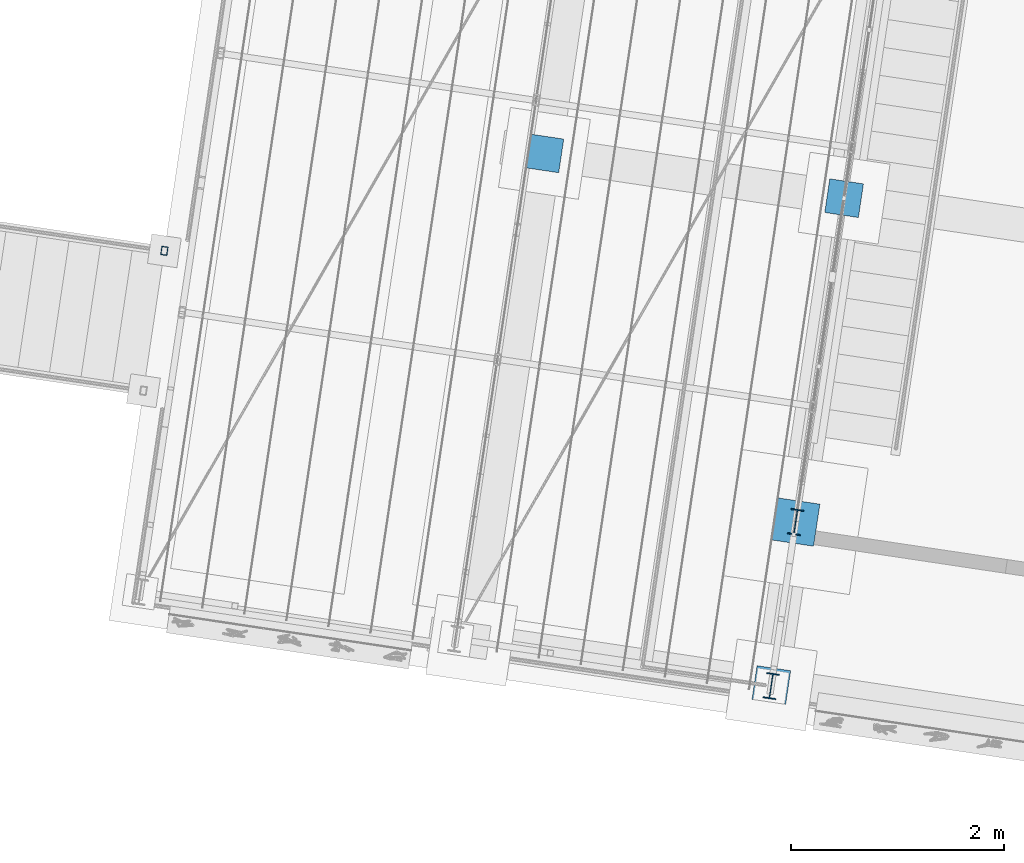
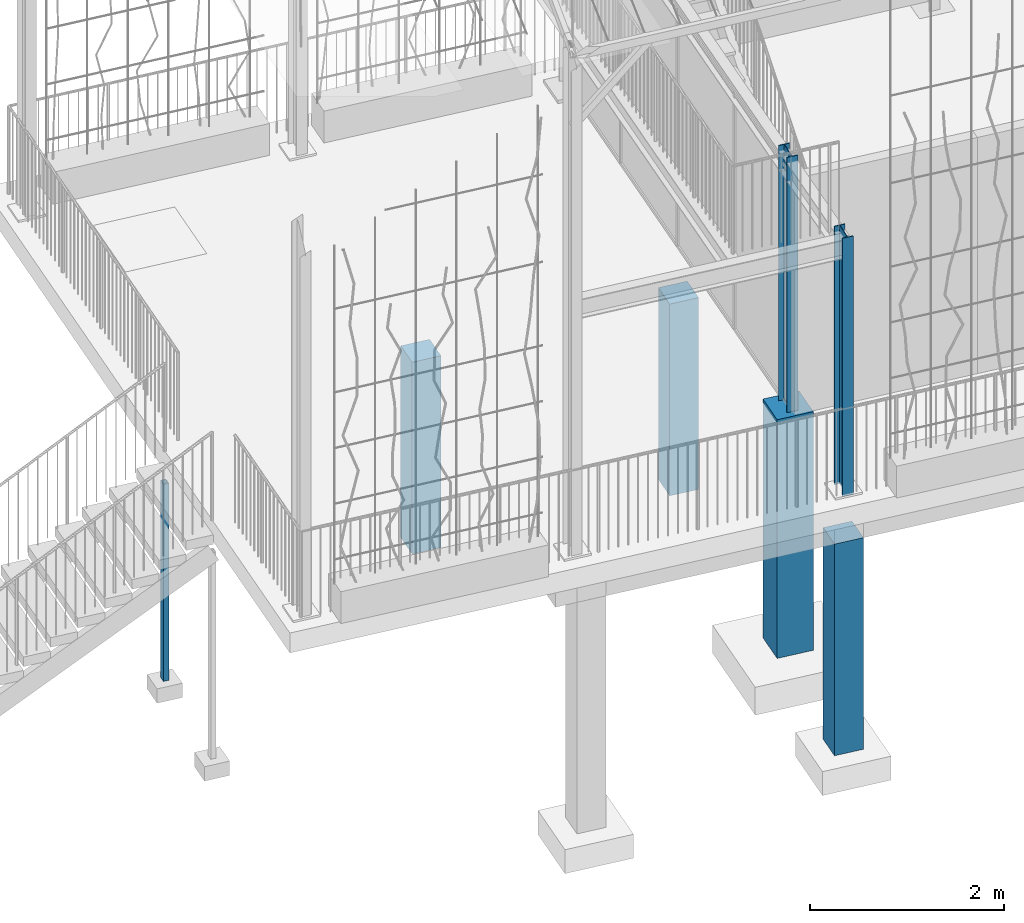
# One storey, part 3 of 143: 7 columns, 2 elements without a shape of their own.
"""IFC4 building model written with IfcOpenShell, lengths in metres."""

from ifc_helpers import new_model, si_unit, direction, frame, origin_with_axes, place, context, subcontext, project, spatial, polyline, hollow_rectangle, i_section, outline, extrude, material, material_profile, profile_set, profile_usage, type_object, element, aggregate, save


model = new_model("IFC4")

# Units and contexts
model_context = context("Model", 3, precision=1e-05, world=origin_with_axes(), true_north=direction((0.0, 1.0)))
body_context = subcontext(model_context, "Body", "Model", "MODEL_VIEW")
ifc_project = project(units=[si_unit("VOLUMEUNIT", "CUBIC_METRE"), si_unit("LENGTHUNIT", "METRE"), si_unit("AREAUNIT", "SQUARE_METRE")], contexts=[model_context])

# Site, building, storey
site_placement = place(None, origin_with_axes())
site = spatial("IfcSite", under=ifc_project, at=site_placement, Name="Lares · Rua das Mercês · artigo 4771")
building_placement = place(site_placement, frame((15.0, 9.7, 15.8), z_axis=(0.0, 0.0, 1.0), x_axis=(0.989015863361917, -0.147809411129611, 0.0)))
building = spatial("IfcBuilding", under=site, at=building_placement, Name="Casa Sobreposta")
storey_placement = place(building_placement, origin_with_axes())
storey = spatial("IfcBuildingStorey", under=building, at=storey_placement, Name="00 · Habitação e estacionamento", Elevation=15.8)

# Columns
ifc_material_1 = material(Name="Aço pintado / Stahl lackiert", Category="steel")
ifc_material_profile_1 = material_profile(ifc_material_1, i_section(OverallWidth=0.12, OverallDepth=0.24, WebThickness=0.0062, FlangeThickness=0.0098))
ifc_profile_set_1 = profile_set([ifc_material_profile_1], Name="IPE240")
ifc_profile_usage_1 = profile_usage(ifc_profile_set_1)
column_type_1 = type_object("IfcColumnType", Name="IPE240 / steel", PredefinedType="NOTDEFINED", material=ifc_profile_set_1)
column_1_placement = place(storey_placement, frame((0.0, 0.12, 0.0), z_axis=(0.0, 0.0, 1.0), x_axis=(1.0, 0.0, 0.0)))
element("IfcColumn", 1, at=column_1_placement, inside=storey, type_object=column_type_1, material=ifc_profile_usage_1, Name="Pilar 1A · IPE240", context=body_context, shape_type="SweptSolid", body=[
    extrude(i_section(OverallWidth=0.12, OverallDepth=0.24, WebThickness=0.0062, FlangeThickness=0.0098), origin_with_axes(), (0.0, 0.0, 1.0), 3.208),
])
ifc_profile_usage_2 = profile_usage(ifc_profile_set_1)
column_2_placement = place(storey_placement, frame((0.0, -1.44, -0.04), z_axis=(0.0, 0.0, 1.0), x_axis=(1.0, 0.0, 0.0)))
element("IfcColumn", 2, at=column_2_placement, inside=storey, type_object=column_type_1, material=ifc_profile_usage_2, Name="Projeção estufa · pilar sul ao pódio", context=body_context, shape_type="SweptSolid", body=[
    extrude(i_section(OverallWidth=0.12, OverallDepth=0.24, WebThickness=0.0062, FlangeThickness=0.0098), origin_with_axes(), (0.0, 0.0, 1.0), 3.248),
])

# Stair, column
stair_placement = place(storey_placement, origin_with_axes())
stair = element("IfcStair", 3, at=stair_placement, inside=storey, Name="Jardim · escada pela fachada poente", PredefinedType="STRAIGHT_RUN_STAIR")
ifc_material_profile_2 = material_profile(ifc_material_1, hollow_rectangle(XDim=0.06, YDim=0.08, WallThickness=0.004))
ifc_profile_set_2 = profile_set([ifc_material_profile_2], Name="RHS80x60x4")
ifc_profile_usage_3 = profile_usage(ifc_profile_set_2)
column_type_2 = type_object("IfcColumnType", Name="RHS80x60x4 / steel", PredefinedType="NOTDEFINED", material=ifc_profile_set_2)
column_3_placement = place(stair_placement, frame((-6.25, 1.765, -2.90553574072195), z_axis=(0.0, 0.0, 1.0), x_axis=(1.0, 0.0, 0.0)))
column_3 = element("IfcColumn", 4, at=column_3_placement, type_object=column_type_2, material=ifc_profile_usage_3, Name="Jardim · montante", context=body_context, shape_type="SweptSolid", body=[
    extrude(hollow_rectangle(XDim=0.06, YDim=0.08, WallThickness=0.004), origin_with_axes(), (0.0, 0.0, 1.0), 2.47921995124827),
])
aggregate(stair, [column_3])

# Column
ifc_material_2 = material(Name="Betão armado / Stahlbeton", Category="concrete")
column_4_placement = place(storey_placement, frame((0.0, 0.0, -3.0), z_axis=(0.0, 0.0, 1.0), x_axis=(1.0, 0.0, 0.0)))
element("IfcColumn", 5, at=column_4_placement, inside=storey, material=ifc_material_2, Name="Pedestal 1A · betão 400 x 400", context=body_context, shape_type="SweptSolid", body=[
    extrude(outline(polyline([(0.2, -0.08), (0.2, 0.32), (-0.2, 0.32), (-0.2, -0.08), (0.2, -0.08)])), origin_with_axes(), (0.0, 0.0, 1.0), 3.0),
])

# Assembly, columns
assembly_placement = place(storey_placement, origin_with_axes())
assembly = element("IfcElementAssembly", 6, at=assembly_placement, inside=storey, Name="Pódio · terraço, casa térrea e cisterna", ObjectType="CISTERN_PODIUM", PredefinedType="USERDEFINED")
column_5_placement = place(assembly_placement, frame((0.0, 0.0, -3.0), z_axis=(0.0, 0.0, 1.0), x_axis=(1.0, 0.0, 0.0)))
column_5 = element("IfcColumn", 7, at=column_5_placement, material=ifc_material_2, Name="Pódio suspenso · apoio sobre o terreno", context=body_context, shape_type="SweptSolid", body=[
    extrude(outline(polyline([(-2.69, 3.04), (-2.69, 3.36), (-3.01, 3.36), (-3.01, 3.04), (-2.69, 3.04)])), origin_with_axes(), (0.0, 0.0, 1.0), 2.41),
])
column_6_placement = place(assembly_placement, frame((0.0, 0.0, -3.25), z_axis=(0.0, 0.0, 1.0), x_axis=(1.0, 0.0, 0.0)))
column_6 = element("IfcColumn", 8, at=column_6_placement, material=ifc_material_2, Name="Pódio suspenso · apoio sobre o terreno", context=body_context, shape_type="SweptSolid", body=[
    extrude(outline(polyline([(0.16, -1.59), (0.16, -1.27), (-0.16, -1.27), (-0.16, -1.59), (0.16, -1.59)])), origin_with_axes(), (0.0, 0.0, 1.0), 2.66),
])
column_7_placement = place(assembly_placement, frame((0.0, 0.0, -3.0), z_axis=(0.0, 0.0, 1.0), x_axis=(1.0, 0.0, 0.0)))
column_7 = element("IfcColumn", 9, at=column_7_placement, material=ifc_material_2, Name="Pódio suspenso · apoio sobre o terreno", context=body_context, shape_type="SweptSolid", body=[
    extrude(outline(polyline([(0.16, 3.04), (0.16, 3.36), (-0.16, 3.36), (-0.16, 3.04), (0.16, 3.04)])), origin_with_axes(), (0.0, 0.0, 1.0), 2.41),
])
aggregate(assembly, [column_5, column_6, column_7])

save(model, "model.ifc")
